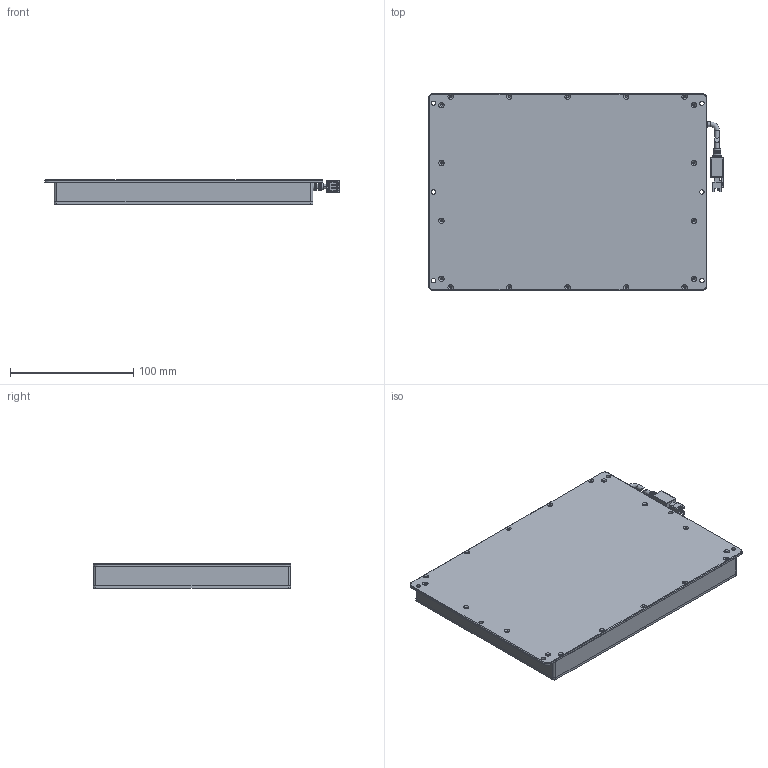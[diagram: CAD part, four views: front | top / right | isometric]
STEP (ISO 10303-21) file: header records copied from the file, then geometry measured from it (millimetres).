
FILE_DESCRIPTION (( 'STEP AP214' ), '1' );
FILE_NAME ('PPX-BO220150-W-A1.0.STEP', '2019-08-20T02:29:17', ( '微软用户' ), ( '微软中国' ), 'SwSTEP 2.0', 'SolidWorks 2016', '' );
FILE_SCHEMA (( 'AUTOMOTIVE_DESIGN' ));
Length unit declared in the file: millimetre
Products named in the file (6): 两芯电源线 （母端） - 副本; PPX-BO220150PCB-7-A1.0; PPX-BO220150-W-A1.0鞦扞啣; PPX-BO220150-W-A1.0翋极; PPX-BO220150-W-A1.0菁啣; PPX-BO220150-W-A1.0
Assembly tree (8 placements, depth 2):
  PPX-BO220150-W-A1.0
    PPX-BO220150-W-A1.0菁啣
    PPX-BO220150-W-A1.0翋极
    PPX-BO220150-W-A1.0鞦扞啣
    PPX-BO220150PCB-7-A1.0  x4
    两芯电源线 （母端） - 副本
Bounding box: 239.55 x 160 x 20 mm (x, y, z)
Volume: 251688.3 mm3; surface area: 246325 mm2
Topology: 9 solids, 9 shells, 3691 faces, 8950 edges, 5835 vertices
Faces by surface type: plane 3174, cylinder 267, cone 228, torus 16, sphere 4, bspline 2
Entity records: 42899 total; most frequent: CARTESIAN_POINT 7430, DIRECTION 7075, ORIENTED_EDGE 6948, EDGE_CURVE 3474, LINE 2719, VECTOR 2719, VERTEX_POINT 2235, AXIS2_PLACEMENT_3D 2178
